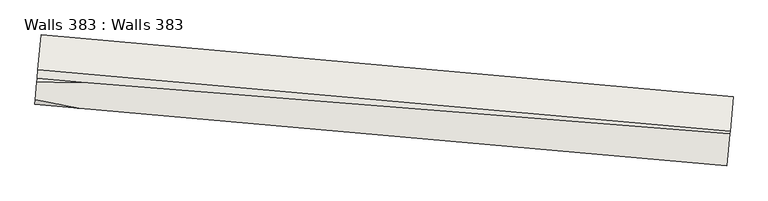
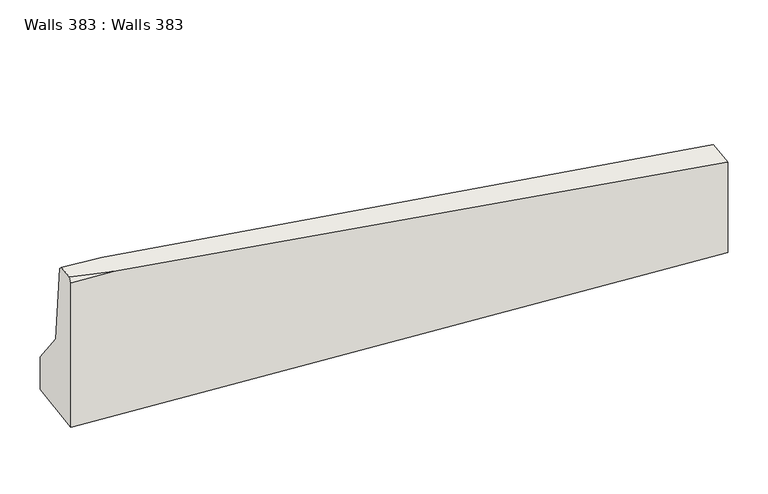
"""IFC4 building model written with IfcOpenShell, lengths in millimetres: wall geometry, Walls 383 : Walls 383."""

from ifc_helpers import new_model, si_unit, origin, place, context, project, spatial, faceted_brep, source, transform, mapped, element, save


def walls_383_walls_383_b555544e(model_context):
    return source(origin(), model_context, "Body", "Brep", [
        faceted_brep([(-638775.6523704, -421771.1797057, 637180.0), (-638793.3998355, -421970.3907182, 637430.0), (-638794.6298578, -421984.197422, 637570.0), (-638811.1473005, -422169.6017306, 637570.0), (-638811.1473005, -422169.6017306, 636960.0), (-638775.6523704, -421771.1797057, 636960.0), (-642759.8726195, -421416.2304051, 637180.0), (-642759.8726195, -421416.2304051, 636960.0), (-642795.3675496, -421814.65243, 636960.0), (-642795.3675496, -421814.65243, 637935.0), (-642793.1491164, -421789.7510535, 637960.0), (-642784.2753839, -421690.1455472, 637960.0), (-642782.0569508, -421665.2441707, 637935.0), (-642777.6200845, -421615.4414176, 637430.0), (-642526.6582169, -421687.997331, 637935.0), (-642539.9688156, -421837.4055903, 637935.0)], [[[0, 1, 2, 3, 4, 5]], [[6, 7, 8, 9, 10, 11, 12, 13]], [[1, 0, 6, 13]], [[13, 12, 14, 2, 1]], [[12, 11, 14]], [[10, 9, 15]], [[9, 8, 4, 3, 15]], [[5, 4, 8, 7]], [[0, 5, 7, 6]], [[3, 2, 14, 11, 10, 15]]]),
    ])


if __name__ == "__main__":
    model = new_model("IFC4")
    model_context = context("Model", 3, world=origin())
    ifc_project = project(units=[si_unit("LENGTHUNIT", "METRE", prefix="MILLI")], contexts=[model_context])
    site = spatial("IfcSite", under=ifc_project)
    building = spatial("IfcBuilding", under=site)
    placement = place(None, origin())
    walls_383_walls_383_shape = walls_383_walls_383_b555544e(model_context)
    element("IfcWall", 1, ObjectType="Walls 383 : Walls 383", at=placement, inside=building, context=model_context, shape_type="MappedRepresentation", body=[
        mapped(walls_383_walls_383_shape, transform((0.0, 0.0, 0.0), x_axis=(1.0, 0.0, 0.0), y_axis=(0.0, 1.0, 0.0), z_axis=(0.0, 0.0, 1.0))),
    ])
    save(model, "model.ifc")
